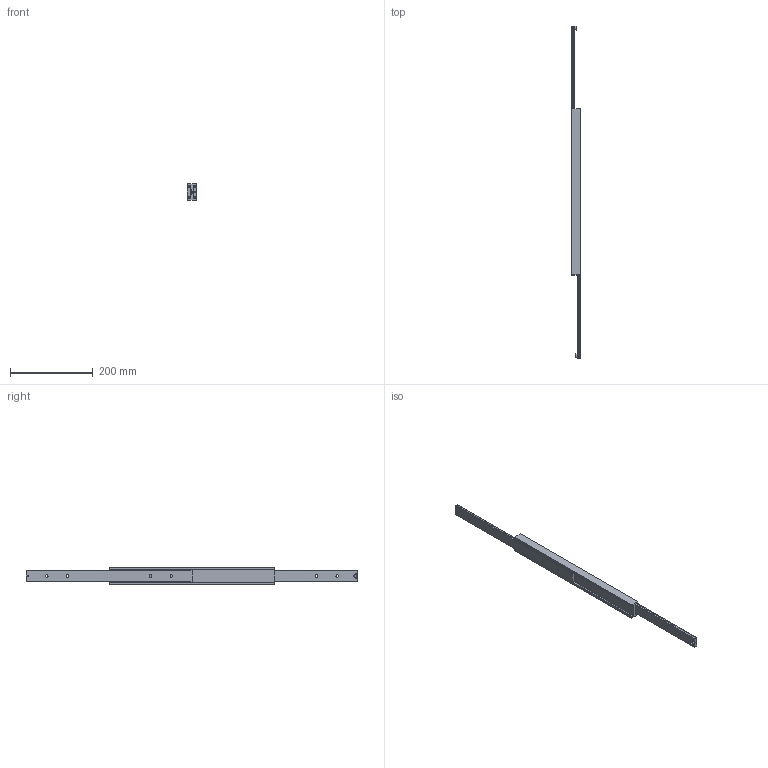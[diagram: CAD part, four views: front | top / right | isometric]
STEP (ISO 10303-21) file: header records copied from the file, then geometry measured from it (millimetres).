
FILE_DESCRIPTION(/* description */ (''),/* implementation_level */ '2;1');
FILE_NAME(/* name */ 'D:\Zeichnungen Schienen Komplett\MX-DTP40\MX-DTP40.040\MX-DTP40.040_ausgefahren.step',/* time_stamp */ '2022-02-21T15:02:07+01:00',/* author */ ('zmile'),/* organization */ (''),/* preprocessor_version */ 'ST-DEVELOPER v16.13',/* originating_system */ 'AutoCAD Mechanical',/* authorisation */ '');
FILE_SCHEMA (('AUTOMOTIVE_DESIGN { 1 0 10303 214 3 1 1 }'));
Length unit declared in the file: millimetre
Products named in the file (1): Product
Bounding box: 24 x 800 x 40 mm (x, y, z)
Volume: 302869.5 mm3; surface area: 152066.8 mm2
Topology: 47 solids, 47 shells, 288 faces, 726 edges, 480 vertices
Faces by surface type: plane 198, cylinder 48, sphere 28, bspline 8, torus 6
Full cylindrical faces by diameter (mm): 6 x36, 10 x2
Entity records: 13584 total; most frequent: CARTESIAN_POINT 6844, DIRECTION 1308, ORIENTED_EDGE 1248, EDGE_CURVE 624, LINE 478, VECTOR 478, VERTEX_POINT 478, AXIS2_PLACEMENT_3D 415
